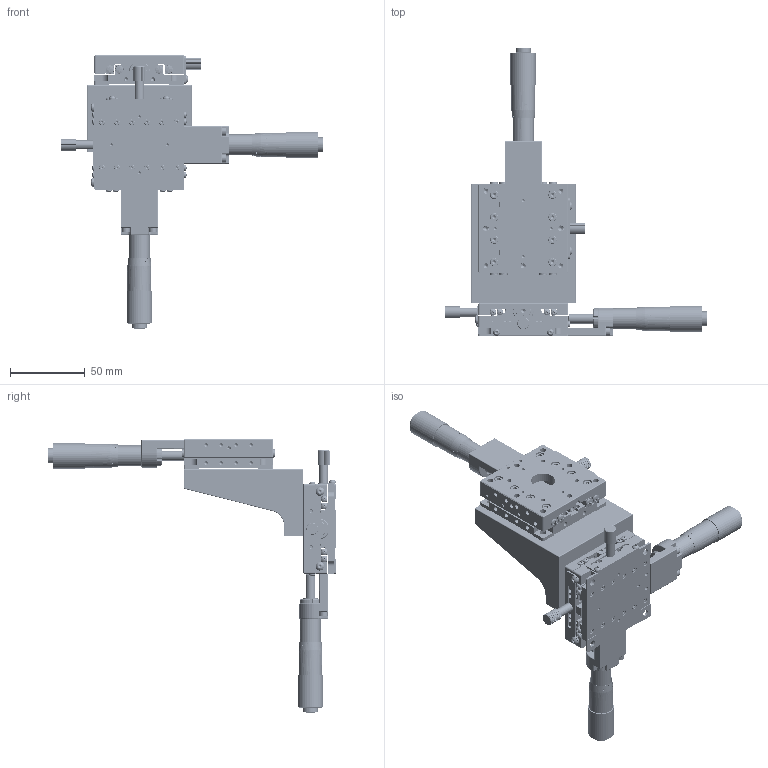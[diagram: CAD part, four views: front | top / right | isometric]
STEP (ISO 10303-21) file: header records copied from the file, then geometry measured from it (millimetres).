
FILE_DESCRIPTION (( 'STEP AP203' ), '1' );
FILE_NAME ('M-TCSJ60XYZ-10-BL-NOB.STEP', '2023-06-27T06:41:32', ( '匠星' ), ( '' ), 'SwSTEP 2.0', 'SolidWorks 2019', '' );
FILE_SCHEMA (( 'CONFIG_CONTROL_DESIGN' ));
Length unit declared in the file: millimetre
Products named in the file (31): MER-25後管-NOB; M-TCSJ60Z-10-BL(190528); TCSJ60XY-10-LOCK¤ù; ABJ60Z; pan cross head_am_B18.6.7M - M2 x 0.4 x 4 Type I Cross Recessed PHMS --4N; MER-25前管; 薄型-60XY-中片; O7.5x21.5L(HS3-5-1); 交叉滾子V2-60(6-12); socket head cap screw_am_B18.3.1M - 2 x 0.4 x 5 Hex SHCS -- 5NHX; socket head cap screw_am_B18.3.1M - 3 x 0.5 x 6 Hex SHCS -- 6NHX; 薄型-60XY-底板; socket button head cap screw_am_B18.3.4M - 3 x 0.5 x 5 SBHCS --N; M3x0.5P無沉頭; M-TCSJ60XY-10-BL; 分厘卡牙環; MVR1-60H; 薄型-60XY-上片; M-TCSJ60X-(2)-下板-V1.1; M-TCSJ60XYZ-10-BL-NOB; M-TCSJ60X-(5)固定片-V1.2; ψ3x1L; TCSJ60XY-10-LOCK¤ù(¤U¶b); M-TCSJ60X-(1)-面板-V1.1; socket button head cap screw_am_B18.3.4M - 3 x 0.5 x 4 SBHCS --N; ψ4X3.7L; M2.5-5L_B18.3.4M - 3 x 0.5 x 5 SBHCS --N; M-TCSJ60X-()中推分厘卡座-V1.1; ψ7.5X11.5L; TCSJ60XY-10-中推分厘卡座; socket head cap screw_am_B18.3.1M - 2 x 0.4 x 6 Hex SHCS -- 6NHX
Assembly tree (115 placements, depth 3):
  M-TCSJ60XYZ-10-BL-NOB
    ABJ60Z
    M-TCSJ60Z-10-BL(190528)
      交叉滾子V2-60(6-12)  x4
      M3x0.5P無沉頭  x7
      M-TCSJ60X-(2)-下板-V1.1
      M-TCSJ60X-(1)-面板-V1.1
      M-TCSJ60X-()中推分厘卡座-V1.1
      MER-25後管-NOB
      MER-25前管
      socket head cap screw_am_B18.3.1M - 3 x 0.5 x 6 Hex SHCS -- 6NHX  x18
      分厘卡牙環
      M-TCSJ60X-(5)固定片-V1.2
      socket button head cap screw_am_B18.3.4M - 3 x 0.5 x 4 SBHCS --N  x2
      ψ7.5X11.5L
    M-TCSJ60XY-10-BL
      分厘卡牙環  x2
      薄型-60XY-中片
      薄型-60XY-底板
      MVR1-60H  x8
      ψ3x1L
      ψ4X3.7L
      TCSJ60XY-10-中推分厘卡座  x2
      TCSJ60XY-10-LOCK¤ù
      O7.5x21.5L(HS3-5-1)  x2
      socket button head cap screw_am_B18.3.4M - 3 x 0.5 x 5 SBHCS --N  x2
      MER-25前管  x2
      MER-25後管-NOB  x2
      薄型-60XY-上片
      TCSJ60XY-10-LOCK¤ù(¤U¶b)
      M2.5-5L_B18.3.4M - 3 x 0.5 x 5 SBHCS --N  x2
      socket head cap screw_am_B18.3.1M - 2 x 0.4 x 6 Hex SHCS -- 6NHX  x12
      socket head cap screw_am_B18.3.1M - 3 x 0.5 x 6 Hex SHCS -- 6NHX  x4
      pan cross head_am_B18.6.7M - M2 x 0.4 x 4 Type I Cross Recessed PHMS --4N  x16
      socket head cap screw_am_B18.3.1M - 2 x 0.4 x 5 Hex SHCS -- 5NHX  x12
Bounding box: 175.47 x 192.97 x 182.97 mm (x, y, z)
Volume: 243116.6 mm3; surface area: 152642.4 mm2
Topology: 113 solids, 113 shells, 7699 faces, 19270 edges, 12091 vertices
Faces by surface type: plane 3516, cylinder 2058, bspline 1098, cone 777, torus 166, sphere 84
Entity records: 120985 total; most frequent: CARTESIAN_POINT 40141, ORIENTED_EDGE 15692, DIRECTION 15398, EDGE_CURVE 7846, AXIS2_PLACEMENT_3D 5796, VERTEX_POINT 5079, LINE 3806, VECTOR 3806
